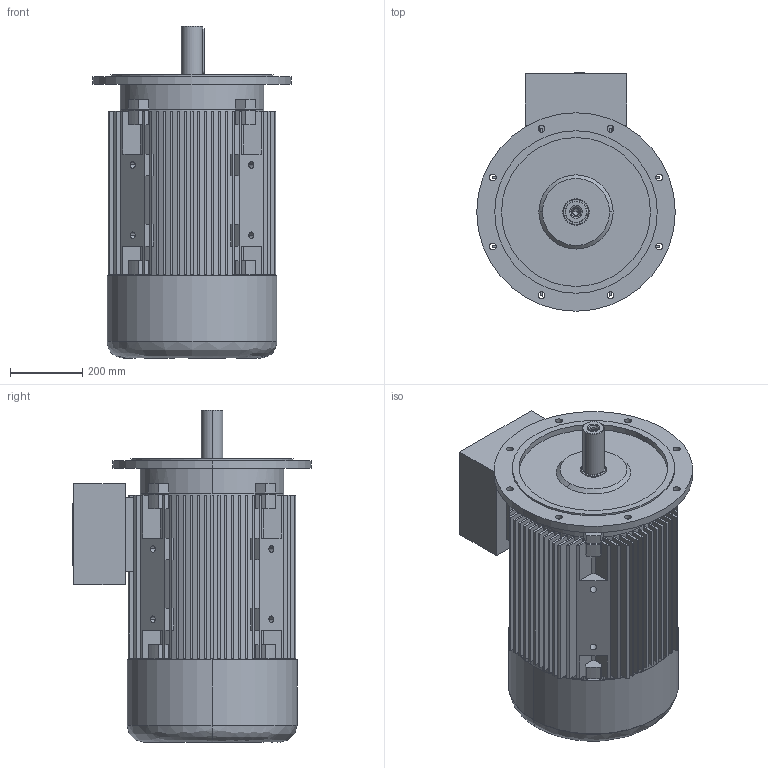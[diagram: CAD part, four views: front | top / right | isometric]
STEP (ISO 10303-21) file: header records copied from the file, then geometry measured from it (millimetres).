
FILE_DESCRIPTION (( 'STEP AP203' ), '1' );
FILE_NAME ('20.17509_B 7AT 250M -2 B5.STEP', '2018-04-11T05:52:01', ( '' ), ( '' ), 'SwSTEP 2.0', 'SolidWorks 2017', '' );
FILE_SCHEMA (( 'CONFIG_CONTROL_DESIGN' ));
Length unit declared in the file: millimetre
Products named in the file (1): 20.17509_B 7AT 250M -2 B5
Bounding box: 550 x 661 x 920 mm (x, y, z)
Volume: 46050940 mm3; surface area: 6155385.7 mm2
Topology: 7 solids, 7 shells, 789 faces, 2103 edges, 1383 vertices
Faces by surface type: plane 614, cylinder 128, cone 34, bspline 13
Entity records: 25147 total; most frequent: CARTESIAN_POINT 5079, ORIENTED_EDGE 4170, DIRECTION 4111, EDGE_CURVE 2085, LINE 1545, VECTOR 1545, VERTEX_POINT 1383, AXIS2_PLACEMENT_3D 1283
